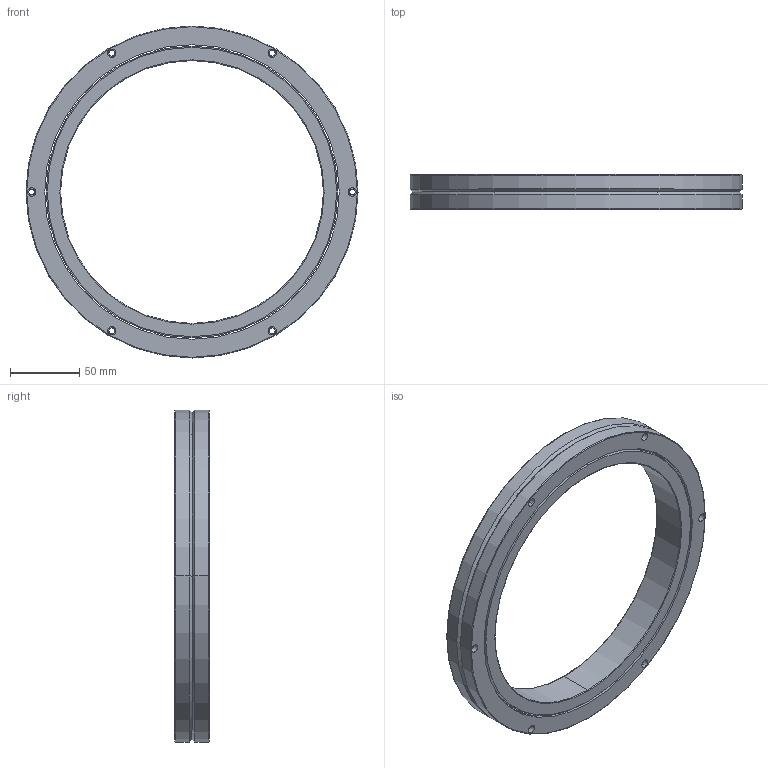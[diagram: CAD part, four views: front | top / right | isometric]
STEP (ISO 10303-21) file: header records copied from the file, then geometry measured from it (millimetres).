
FILE_DESCRIPTION((''),'2;1');
FILE_NAME('RB19025','2015-08-27T',('Administrator'),(''),'PRO/ENGINEER BY PARAMETRIC TECHNOLOGY CORPORATION, 2010180','PRO/ENGINEER BY PARAMETRIC TECHNOLOGY CORPORATION, 2010180','');
FILE_SCHEMA(('AUTOMOTIVE_DESIGN_CC2 { 1 2 10303 214 -1 1 5 2 }'));
Length unit declared in the file: millimetre
Products named in the file (1): RB19025
Bounding box: 240 x 25 x 240 mm (x, y, z)
Volume: 330439.6 mm3; surface area: 119261.8 mm2
Topology: 2 solids, 2 shells, 104 faces, 220 edges, 138 vertices
Faces by surface type: cylinder 62, plane 22, cone 12, torus 8
Entity records: 2965 total; most frequent: DIRECTION 574, CARTESIAN_POINT 462, ORIENTED_EDGE 440, AXIS2_PLACEMENT_3D 250, EDGE_CURVE 220, CIRCLE 146, VERTEX_POINT 138, EDGE_LOOP 138
